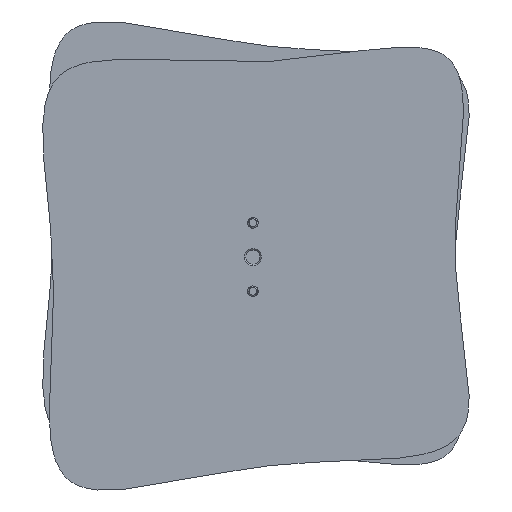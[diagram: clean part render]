
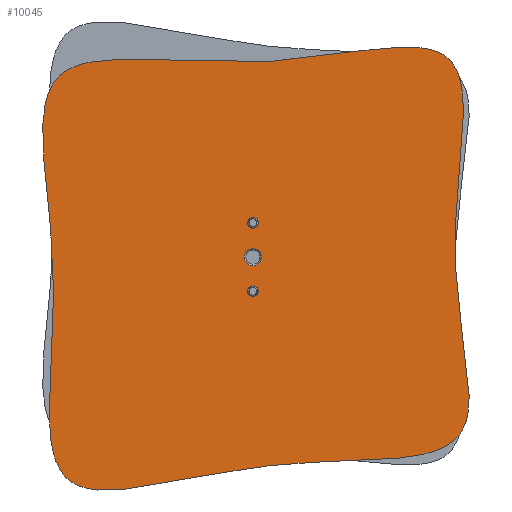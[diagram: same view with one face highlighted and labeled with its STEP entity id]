
A CAD part, front view. The second image highlights one B-rep face of the part: STEP entity #10045.
In plain terms, the highlighted planar face has unit normal (0, -1, 0).
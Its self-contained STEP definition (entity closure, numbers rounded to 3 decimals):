
#305 = CARTESIAN_POINT ( 'NONE',  ( 0., -3.5, 0. ) ) ;
#335 = DIRECTION ( 'NONE',  ( 0., -1., 0. ) ) ;
#427 = DIRECTION ( 'NONE',  ( 0., 0., -1. ) ) ;
#603 = CARTESIAN_POINT ( 'NONE',  ( 41.041, -3.5, 0.873 ) ) ;
#808 = CARTESIAN_POINT ( 'NONE',  ( 0., -3.5, -9.25 ) ) ;
#1261 = DIRECTION ( 'NONE',  ( 0., 0., -1. ) ) ;
#1442 = CARTESIAN_POINT ( 'NONE',  ( 0., -3.5, -8. ) ) ;
#1717 = DIRECTION ( 'NONE',  ( 0., 1., 0. ) ) ;
#2132 = EDGE_LOOP ( 'NONE', ( #6182, #2696 ) ) ;
#2465 = EDGE_CURVE ( 'NONE', #5517, #7265, #3577, .T. ) ;
#2696 = ORIENTED_EDGE ( 'NONE', *, *, #2465, .T. ) ;
#2699 = B_SPLINE_CURVE_WITH_KNOTS ( 'NONE', 3,
 ( #12902, #17201, #10243, #8359, #4126, #17279, #14158 ),
 .UNSPECIFIED., .F., .F.,
 ( 4, 1, 1, 1, 4 ),
 ( 0.5, 0.607, 0.739, 0.863, 1. ),
 .UNSPECIFIED. ) ;
#2815 = VERTEX_POINT ( 'NONE', #13753 ) ;
#2960 = EDGE_CURVE ( 'NONE', #3435, #5972, #3334, .T. ) ;
#2962 = DIRECTION ( 'NONE',  ( 0., 0., -1. ) ) ;
#3213 = CARTESIAN_POINT ( 'NONE',  ( 59.059, -3.5, 58.721 ) ) ;
#3302 = CARTESIAN_POINT ( 'NONE',  ( -2.897, -3.5, -49.698 ) ) ;
#3334 = CIRCLE ( 'NONE', #6725, 1.25 ) ;
#3435 = VERTEX_POINT ( 'NONE', #10945 ) ;
#3577 = CIRCLE ( 'NONE', #7572, 2. ) ;
#4126 = CARTESIAN_POINT ( 'NONE',  ( -58.295, -3.5, 54.728 ) ) ;
#4362 = AXIS2_PLACEMENT_3D ( 'NONE', #6895, #15755, #8325 ) ;
#4537 = CARTESIAN_POINT ( 'NONE',  ( 21.448, -3.5, 46.75 ) ) ;
#4551 = CARTESIAN_POINT ( 'NONE',  ( 0., -3.5, 8. ) ) ;
#4717 = DIRECTION ( 'NONE',  ( 0., -1., 0. ) ) ;
#4825 = CARTESIAN_POINT ( 'NONE',  ( 19.694, -3.5, -46.142 ) ) ;
#5247 = EDGE_CURVE ( 'NONE', #2815, #17594, #2699, .T. ) ;
#5302 = ORIENTED_EDGE ( 'NONE', *, *, #18248, .F. ) ;
#5425 = FACE_BOUND ( 'NONE', #8507, .T. ) ;
#5517 = VERTEX_POINT ( 'NONE', #8425 ) ;
#5881 = CARTESIAN_POINT ( 'NONE',  ( 0., -3.5, 0. ) ) ;
#5972 = VERTEX_POINT ( 'NONE', #6380 ) ;
#6182 = ORIENTED_EDGE ( 'NONE', *, *, #17994, .T. ) ;
#6380 = CARTESIAN_POINT ( 'NONE',  ( 0., -3.5, 9.25 ) ) ;
#6470 = ORIENTED_EDGE ( 'NONE', *, *, #11276, .F. ) ;
#6725 = AXIS2_PLACEMENT_3D ( 'NONE', #4551, #335, #427 ) ;
#6895 = CARTESIAN_POINT ( 'NONE',  ( -6.564, -3.5, -50.352 ) ) ;
#7041 = EDGE_CURVE ( 'NONE', #17594, #2815, #15276, .T. ) ;
#7172 = CIRCLE ( 'NONE', #12341, 1.25 ) ;
#7265 = VERTEX_POINT ( 'NONE', #15731 ) ;
#7572 = AXIS2_PLACEMENT_3D ( 'NONE', #5881, #1717, #14756 ) ;
#7718 = CARTESIAN_POINT ( 'NONE',  ( 3.915, -3.5, 45.753 ) ) ;
#7871 = CIRCLE ( 'NONE', #8180, 2. ) ;
#7882 = CIRCLE ( 'NONE', #9091, 1.25 ) ;
#8180 = AXIS2_PLACEMENT_3D ( 'NONE', #305, #17878, #10560 ) ;
#8325 = DIRECTION ( 'NONE',  ( 0., 0., -1. ) ) ;
#8359 = CARTESIAN_POINT ( 'NONE',  ( -41.578, -3.5, -4.397 ) ) ;
#8425 = CARTESIAN_POINT ( 'NONE',  ( 0., -3.5, 2. ) ) ;
#8507 = EDGE_LOOP ( 'NONE', ( #15523, #5302 ) ) ;
#9054 = CARTESIAN_POINT ( 'NONE',  ( -6.564, -3.5, -50.352 ) ) ;
#9091 = AXIS2_PLACEMENT_3D ( 'NONE', #18528, #14541, #2962 ) ;
#10045 = ADVANCED_FACE ( 'NONE', ( #12962, #5425, #11355, #14214 ), #18408, .T. ) ;
#10243 = CARTESIAN_POINT ( 'NONE',  ( -54.876, -3.5, -62.425 ) ) ;
#10560 = DIRECTION ( 'NONE',  ( 0., 0., 1. ) ) ;
#10945 = CARTESIAN_POINT ( 'NONE',  ( 0., -3.5, 6.75 ) ) ;
#11145 = ORIENTED_EDGE ( 'NONE', *, *, #5247, .F. ) ;
#11276 = EDGE_CURVE ( 'NONE', #5972, #3435, #11412, .T. ) ;
#11355 = FACE_BOUND ( 'NONE', #2132, .T. ) ;
#11412 = CIRCLE ( 'NONE', #15376, 1.25 ) ;
#11744 = EDGE_LOOP ( 'NONE', ( #6470, #16686 ) ) ;
#12038 = CARTESIAN_POINT ( 'NONE',  ( 3.915, -3.5, 45.753 ) ) ;
#12109 = VERTEX_POINT ( 'NONE', #808 ) ;
#12128 = VERTEX_POINT ( 'NONE', #16679 ) ;
#12341 = AXIS2_PLACEMENT_3D ( 'NONE', #1442, #4717, #13406 ) ;
#12730 = ORIENTED_EDGE ( 'NONE', *, *, #7041, .F. ) ;
#12902 = CARTESIAN_POINT ( 'NONE',  ( -6.564, -3.5, -50.352 ) ) ;
#12937 = EDGE_CURVE ( 'NONE', #12128, #12109, #7172, .T. ) ;
#12962 = FACE_BOUND ( 'NONE', #11744, .T. ) ;
#13406 = DIRECTION ( 'NONE',  ( 0., 0., -1. ) ) ;
#13753 = CARTESIAN_POINT ( 'NONE',  ( -6.564, -3.5, -50.352 ) ) ;
#14158 = CARTESIAN_POINT ( 'NONE',  ( 3.915, -3.5, 45.753 ) ) ;
#14214 = FACE_OUTER_BOUND ( 'NONE', #17067, .T. ) ;
#14383 = DIRECTION ( 'NONE',  ( 0., -1., 0. ) ) ;
#14541 = DIRECTION ( 'NONE',  ( 0., -1., 0. ) ) ;
#14756 = DIRECTION ( 'NONE',  ( 0., 0., 1. ) ) ;
#15276 = B_SPLINE_CURVE_WITH_KNOTS ( 'NONE', 3,
 ( #7718, #4537, #3213, #603, #16578, #4825, #3302, #9054 ),
 .UNSPECIFIED., .F., .F.,
 ( 4, 1, 1, 1, 1, 4 ),
 ( 0., 0.113, 0.247, 0.354, 0.476, 0.5 ),
 .UNSPECIFIED. ) ;
#15376 = AXIS2_PLACEMENT_3D ( 'NONE', #15824, #14383, #1261 ) ;
#15523 = ORIENTED_EDGE ( 'NONE', *, *, #12937, .F. ) ;
#15731 = CARTESIAN_POINT ( 'NONE',  ( 0., -3.5, -2. ) ) ;
#15755 = DIRECTION ( 'NONE',  ( 0., -1., 0. ) ) ;
#15824 = CARTESIAN_POINT ( 'NONE',  ( 0., -3.5, 8. ) ) ;
#16578 = CARTESIAN_POINT ( 'NONE',  ( 59.837, -3.5, -51.778 ) ) ;
#16679 = CARTESIAN_POINT ( 'NONE',  ( 0., -3.5, -6.75 ) ) ;
#16686 = ORIENTED_EDGE ( 'NONE', *, *, #2960, .F. ) ;
#17067 = EDGE_LOOP ( 'NONE', ( #12730, #11145 ) ) ;
#17201 = CARTESIAN_POINT ( 'NONE',  ( -22.719, -3.5, -53.236 ) ) ;
#17279 = CARTESIAN_POINT ( 'NONE',  ( -17.235, -3.5, 44.551 ) ) ;
#17594 = VERTEX_POINT ( 'NONE', #12038 ) ;
#17878 = DIRECTION ( 'NONE',  ( 0., 1., 0. ) ) ;
#17994 = EDGE_CURVE ( 'NONE', #7265, #5517, #7871, .T. ) ;
#18248 = EDGE_CURVE ( 'NONE', #12109, #12128, #7882, .T. ) ;
#18408 = PLANE ( 'NONE',  #4362 ) ;
#18528 = CARTESIAN_POINT ( 'NONE',  ( 0., -3.5, -8. ) ) ;
